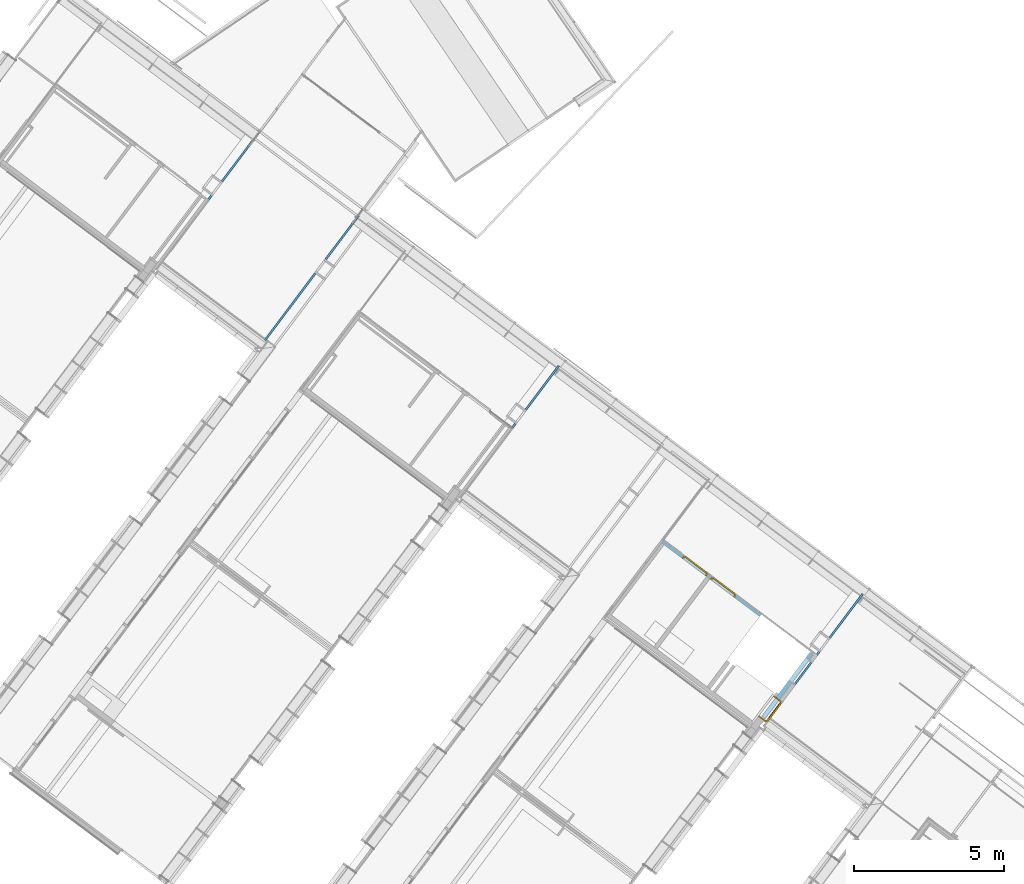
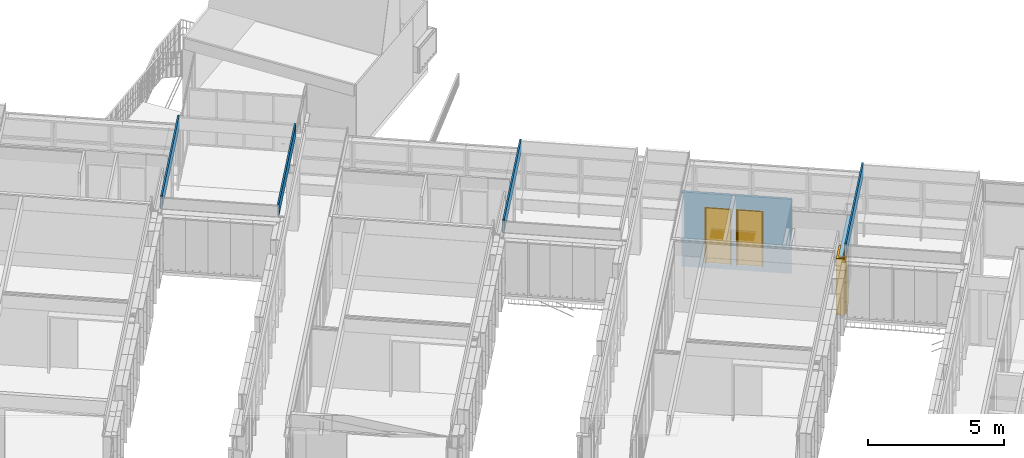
# One storey, part 138 of 243: 4 walls, 3 doors, 4 openings, plus 2 elements that do not belong to this part.
"""IFC2X3 building model written with IfcOpenShell, lengths in metres."""

from ifc_helpers import new_model, entity, si_unit, converted_unit, derived_unit, direction, frame, frame_2d, origin, place, context, subcontext, project, spatial, rectangle, extrude, faceted_brep, source, transform, mapped, material, layer, layer_set, layer_usage, type_object, type_shapes, element, fill, save


model = new_model("IFC2X3")

# Units and contexts
model_context = context("Model", 3, precision=1e-05, world=origin(), true_north=direction((6.123031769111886e-17, 1.0)))
body_context = subcontext(model_context, "Body", "Model", "MODEL_VIEW")
ifc_project = project(units=[si_unit("LENGTHUNIT", "METRE"), si_unit("AREAUNIT", "SQUARE_METRE"), si_unit("VOLUMEUNIT", "CUBIC_METRE"), converted_unit("PLANEANGLEUNIT", "DEGREE", entity("IfcRatioMeasure", 0.017453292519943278), si_unit("PLANEANGLEUNIT", "RADIAN"), dimensions=[0, 0, 0, 0, 0, 0, 0]), si_unit("MASSUNIT", "GRAM", prefix="KILO"), derived_unit("MASSDENSITYUNIT", [(si_unit("MASSUNIT", "GRAM", prefix="KILO"), 1), (si_unit("LENGTHUNIT", "METRE"), -3)]), derived_unit("IONCONCENTRATIONUNIT", [(si_unit("MASSUNIT", "GRAM", prefix="KILO"), 1), (si_unit("LENGTHUNIT", "METRE"), -3)]), derived_unit("MOMENTOFINERTIAUNIT", [(si_unit("LENGTHUNIT", "METRE"), 4)]), si_unit("TIMEUNIT", "SECOND"), si_unit("FREQUENCYUNIT", "HERTZ"), si_unit("THERMODYNAMICTEMPERATUREUNIT", "DEGREE_CELSIUS"), derived_unit("THERMALTRANSMITTANCEUNIT", [(si_unit("MASSUNIT", "GRAM", prefix="KILO"), 1), (si_unit("THERMODYNAMICTEMPERATUREUNIT", "KELVIN"), -1), (si_unit("TIMEUNIT", "SECOND"), -3)]), derived_unit("THERMALCONDUCTANCEUNIT", [(si_unit("MASSUNIT", "GRAM", prefix="KILO"), 1), (si_unit("THERMODYNAMICTEMPERATUREUNIT", "KELVIN"), -1), (si_unit("TIMEUNIT", "SECOND"), -3), (si_unit("LENGTHUNIT", "METRE"), 1)]), derived_unit("VOLUMETRICFLOWRATEUNIT", [(si_unit("LENGTHUNIT", "METRE"), 3), (si_unit("TIMEUNIT", "SECOND"), -1)]), derived_unit("MASSFLOWRATEUNIT", [(si_unit("MASSUNIT", "GRAM", prefix="KILO"), 1), (si_unit("TIMEUNIT", "SECOND"), -1)]), derived_unit("ROTATIONALFREQUENCYUNIT", [(si_unit("TIMEUNIT", "SECOND"), -1)]), si_unit("ELECTRICCURRENTUNIT", "AMPERE"), si_unit("ELECTRICVOLTAGEUNIT", "VOLT"), si_unit("POWERUNIT", "WATT"), si_unit("FORCEUNIT", "NEWTON", prefix="KILO"), si_unit("ILLUMINANCEUNIT", "LUX"), si_unit("LUMINOUSFLUXUNIT", "LUMEN"), si_unit("LUMINOUSINTENSITYUNIT", "CANDELA"), derived_unit("USERDEFINED", [(si_unit("MASSUNIT", "GRAM", prefix="KILO"), -1), (si_unit("LENGTHUNIT", "METRE"), -2), (si_unit("TIMEUNIT", "SECOND"), 3), (si_unit("LUMINOUSFLUXUNIT", "LUMEN"), 1)]), derived_unit("USERDEFINED", [(si_unit("MASSUNIT", "GRAM", prefix="KILO"), 1), (si_unit("TIMEUNIT", "SECOND"), -3), (si_unit("LENGTHUNIT", "METRE"), 3), (si_unit("ELECTRICCURRENTUNIT", "AMPERE"), -2)]), derived_unit("SOUNDPOWERUNIT", [(si_unit("MASSUNIT", "GRAM", prefix="KILO"), 1), (si_unit("TIMEUNIT", "SECOND"), -3), (si_unit("LENGTHUNIT", "METRE"), 2)]), derived_unit("SOUNDPRESSUREUNIT", [(si_unit("MASSUNIT", "GRAM", prefix="KILO"), 1), (si_unit("LENGTHUNIT", "METRE"), -1), (si_unit("TIMEUNIT", "SECOND"), -2)]), derived_unit("LINEARVELOCITYUNIT", [(si_unit("LENGTHUNIT", "METRE"), 1), (si_unit("TIMEUNIT", "SECOND"), -1)]), si_unit("PRESSUREUNIT", "PASCAL"), derived_unit("USERDEFINED", [(si_unit("MASSUNIT", "GRAM", prefix="KILO"), 1), (si_unit("LENGTHUNIT", "METRE"), -2), (si_unit("TIMEUNIT", "SECOND"), -2)]), derived_unit("LINEARFORCEUNIT", [(si_unit("MASSUNIT", "GRAM", prefix="KILO"), 1), (si_unit("TIMEUNIT", "SECOND"), -2)]), derived_unit("PLANARFORCEUNIT", [(si_unit("MASSUNIT", "GRAM", prefix="KILO"), 1), (si_unit("LENGTHUNIT", "METRE"), -1), (si_unit("TIMEUNIT", "SECOND"), -2)]), derived_unit("SPECIFICHEATCAPACITYUNIT", [(si_unit("THERMODYNAMICTEMPERATUREUNIT", "KELVIN"), -1), (si_unit("LENGTHUNIT", "METRE"), 2), (si_unit("TIMEUNIT", "SECOND"), -2)]), derived_unit("HEATINGVALUEUNIT", [(si_unit("LENGTHUNIT", "METRE"), 2), (si_unit("TIMEUNIT", "SECOND"), -2)]), derived_unit("VAPORPERMEABILITYUNIT", [(si_unit("LENGTHUNIT", "METRE"), -1), (si_unit("TIMEUNIT", "SECOND"), 1)]), derived_unit("DYNAMICVISCOSITYUNIT", [(si_unit("MASSUNIT", "GRAM", prefix="KILO"), 1), (si_unit("TIMEUNIT", "SECOND"), -1), (si_unit("LENGTHUNIT", "METRE"), -1)]), derived_unit("THERMALEXPANSIONCOEFFICIENTUNIT", [(si_unit("THERMODYNAMICTEMPERATUREUNIT", "KELVIN"), -1)]), derived_unit("MODULUSOFELASTICITYUNIT", [(si_unit("MASSUNIT", "GRAM", prefix="KILO"), 1), (si_unit("LENGTHUNIT", "METRE"), -1), (si_unit("TIMEUNIT", "SECOND"), -2)]), derived_unit("ISOTHERMALMOISTURECAPACITYUNIT", [(si_unit("LENGTHUNIT", "METRE"), 3), (si_unit("MASSUNIT", "GRAM", prefix="KILO"), -1)]), derived_unit("MOISTUREDIFFUSIVITYUNIT", [(si_unit("TIMEUNIT", "SECOND"), -1), (si_unit("LENGTHUNIT", "METRE"), 2)])], contexts=[model_context])

# Site, building, storey
site_placement = place(None, frame((0.0, 0.0, 235.0), z_axis=(0.0, 0.0, 1.0), x_axis=(-0.7996477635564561, 0.6004693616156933, 0.0)))
site = spatial("IfcSite", under=ifc_project, at=site_placement, Name="Default", CompositionType="ELEMENT")
building_placement = place(site_placement, origin())
building = spatial("IfcBuilding", under=site, at=building_placement, CompositionType="ELEMENT")
storey_placement = place(building_placement, origin())
storey = spatial("IfcBuildingStorey", under=building, at=storey_placement, Name="P0- Escola", CompositionType="ELEMENT", Elevation=0.0)

# Wall, openings, door
ifc_material_1 = material(Name="_Ceràmica- ENV")
ifc_layer_1 = layer(ifc_material_1, 0.14)
ifc_layer_set_1 = layer_set([ifc_layer_1], Name="Muro básico:ENV- Ceràmic- 14 cm")
ifc_layer_usage_1 = layer_usage(ifc_layer_set_1, "AXIS2", "NEGATIVE", 0.07)
wall_type_1 = type_object("IfcWallType", Name="Muro básico:ENV- Ceràmic- 14 cm", PredefinedType="STANDARD", material=ifc_layer_set_1)
wall_1_placement = place(storey_placement, frame((41.18514768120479, -36.75318813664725, -0.2), z_axis=(0.0, 0.0, 1.0), x_axis=(0.0, -1.0, 0.0)))
wall_1 = element("IfcWallStandardCase", 1, at=wall_1_placement, inside=storey, type_object=wall_type_1, material=ifc_layer_usage_1, Name="Muro básico:ENV- Ceràmic- 14 cm", ObjectType="Muro básico:ENV- Ceràmic- 14 cm", context=body_context, shape_type="SweptSolid", body=[
    extrude(rectangle(XDim=2.667501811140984, YDim=0.14000000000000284, at=frame_2d((1.3337509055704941, 1.0269562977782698e-15), x_axis=(-1.0, 0.0))), origin(), (0.0, 0.0, 1.0), 2.8000000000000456),
])
opening_1_placement = place(wall_1_placement, frame((-0.0799999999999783, -0.06999999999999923, 0.2)))
opening_1 = element("IfcOpeningElement", 2, at=opening_1_placement, cuts=wall_1, Name="FUS- Porta Fusta- marc ocult variable- obertura interior:FUS- Porta Fusta- marc ocult- 90x250,5 cm:1", ObjectType="Opening", context=body_context, shape_type="SweptSolid", body=[
    extrude(rectangle(XDim=2.5449999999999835, YDim=0.8700000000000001, at=frame_2d((1.2724999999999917, 0.4350000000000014), x_axis=(1.0, 0.0))), frame((0.0, 0.0, 0.0), z_axis=(0.0, 1.0, 0.0), x_axis=(0.0, 0.0, 1.0)), (0.0, 0.0, 1.0), 0.14),
])
opening_2_placement = place(wall_1_placement, frame((1.48500181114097, -0.06999999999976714, 0.2)))
element("IfcOpeningElement", 3, at=opening_2_placement, cuts=wall_1, Name="FUS- Marc Fusta- marc ocult variable- remat ascensor:FUS- Porta Fusta- marc ocult- 90x250,5 cm:1", ObjectType="Opening", context=body_context, shape_type="SweptSolid", body=[
    extrude(rectangle(XDim=2.5449999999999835, YDim=0.9800000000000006, at=frame_2d((1.2724999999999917, 0.4900000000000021), x_axis=(1.0, 0.0))), frame((0.0, 0.0, 0.0), z_axis=(0.0, 1.0, 0.0), x_axis=(0.0, 0.0, 1.0)), (0.0, 0.0, 1.0), 0.14),
])
ifc_material_2 = material(Name="_Fusta massisa- T1")
door_style_1 = type_object("IfcDoorStyle", Name="FUS- Porta Fusta- marc ocult variable- obertura interior:FUS- Porta Fusta- marc ocult- 90x250,5 cm", ConstructionType="NOTDEFINED", OperationType="NOTDEFINED", ParameterTakesPrecedence=False, Sizeable=False, material=ifc_material_2)
shared_shape_1 = source(origin(), body_context, "Body", "Brep", [
    faceted_brep([(0.040000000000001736, -0.09000000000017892, 2.5049999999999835), (0.8299999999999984, -0.09000000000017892, 2.5049999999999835), (0.830000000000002, -0.09000000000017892, 0.0), (0.8599999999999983, -0.09000000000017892, 0.0), (0.8599999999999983, -0.09000000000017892, 2.5449999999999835), (0.010000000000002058, -0.09000000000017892, 2.5449999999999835), (0.010000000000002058, -0.09000000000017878, 0.0), (0.03999999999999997, -0.09000000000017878, 0.0), (0.830000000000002, 0.1899999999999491, 0.0), (0.830000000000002, 0.09500000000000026, 2.5049999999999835), (0.8299999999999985, 0.09500000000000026, 2.5449999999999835), (0.830000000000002, 0.1899999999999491, 2.5449999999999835), (0.8599999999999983, -0.08000000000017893, 0.0), (0.8099999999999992, 0.1899999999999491, 0.0), (0.8099999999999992, 0.23999999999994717, 0.0), (0.870000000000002, 0.23999999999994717, 0.0), (0.870000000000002, -0.08000000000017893, 0.0), (0.8599999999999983, -0.08000000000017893, 2.5449999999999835), (0.010000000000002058, -0.08000000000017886, 2.5449999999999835), (0.010000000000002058, -0.08000000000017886, 0.0), (0.0, -0.08000000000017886, 0.0), (0.0, 0.23999999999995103, 0.0), (0.060000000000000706, 0.23999999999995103, 0.0), (0.060000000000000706, 0.18999999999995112, 0.0), (0.04000000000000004, 0.18999999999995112, 0.0), (0.04000000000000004, 0.18999999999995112, 2.5449999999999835), (0.04000000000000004, 0.09500000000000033, 2.5449999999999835), (0.04000000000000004, 0.09500000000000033, 2.5049999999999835), (0.8099999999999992, 0.1899999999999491, 2.5449999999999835), (0.8099999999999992, 0.23999999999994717, 2.5449999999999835), (0.870000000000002, 0.23999999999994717, 2.5449999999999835), (0.870000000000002, -0.08000000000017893, 2.5449999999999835), (0.0, -0.08000000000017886, 2.5449999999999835), (0.0, 0.23999999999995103, 2.5449999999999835), (0.060000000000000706, 0.23999999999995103, 2.5449999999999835), (0.060000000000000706, 0.18999999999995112, 2.5449999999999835), (0.05999999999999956, 0.09500000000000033, 2.5449999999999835), (0.8099999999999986, 0.09500000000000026, 2.5449999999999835), (0.8099999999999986, 0.14000000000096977, 2.5449999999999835), (0.05999999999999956, 0.14000000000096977, 2.5449999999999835), (0.05999999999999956, 0.09500000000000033, 2.5049999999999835), (0.8099999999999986, 0.09500000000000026, 2.5049999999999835), (0.8099999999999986, 0.14000000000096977, 2.5049999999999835), (0.05999999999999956, 0.14000000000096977, 2.5049999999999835)], [[[0, 1, 2, 3, 4, 5, 6, 7]], [[8, 2, 1, 9, 10, 11]], [[12, 3, 2, 8, 13, 14, 15, 16]], [[17, 4, 3, 12]], [[5, 18, 19, 6]], [[19, 20, 21, 22, 23, 24, 7, 6]], [[7, 24, 25, 26, 27, 0]], [[11, 28, 13, 8]], [[28, 29, 14, 13]], [[29, 30, 15, 14]], [[30, 31, 16, 15]], [[31, 17, 12, 16]], [[18, 32, 20, 19]], [[32, 33, 21, 20]], [[33, 34, 22, 21]], [[34, 35, 23, 22]], [[35, 25, 24, 23]], [[36, 26, 25, 35, 34, 33, 32, 18, 5, 4, 17, 31, 30, 29, 28, 11, 10, 37, 38, 39]], [[26, 36, 40, 27]], [[37, 10, 9, 41]], [[38, 37, 41, 42]], [[39, 38, 42, 43]], [[36, 39, 43, 40]], [[40, 43, 42, 41, 9, 1, 0, 27]]]),
    faceted_brep([(0.8099999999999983, 0.27499999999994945, 0.0), (0.8099999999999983, 0.22499999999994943, 0.0), (0.05999999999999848, 0.22499999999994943, 0.0), (0.05999999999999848, 0.27499999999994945, 0.0), (0.8099999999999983, 0.27499999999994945, 2.5050000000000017), (0.8099999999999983, 0.22499999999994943, 2.5050000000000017), (0.05999999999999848, 0.22499999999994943, 2.5050000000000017), (0.05999999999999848, 0.27499999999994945, 2.5050000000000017)], [[[0, 1, 2, 3]], [[4, 5, 1, 0]], [[5, 6, 2, 1]], [[6, 7, 3, 2]], [[7, 4, 0, 3]], [[4, 7, 6, 5]]]),
])
type_shapes(door_style_1, [shared_shape_1])
door_1_placement = place(opening_1_placement, frame((0.8699999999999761, 0.14000000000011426, 0.0), z_axis=(0.0, 0.0, 1.0), x_axis=(-1.0, 0.0, 0.0)))
door_1 = element("IfcDoor", 4, at=door_1_placement, inside=storey, type_object=door_style_1, material=ifc_material_2, Name="FUS- Porta Fusta- marc ocult variable- obertura interior:FUS- Porta Fusta- marc ocult- 90x250,5 cm", ObjectType="FUS- Porta Fusta- marc ocult variable- obertura interior:FUS- Porta Fusta- marc ocult- 90x250,5 cm", OverallHeight=2.5449999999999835, OverallWidth=0.8700000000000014, context=body_context, shape_type="MappedRepresentation", body=[
    mapped(shared_shape_1, transform((0.0, 0.0, 0.0), scale=1.0)),
])
fill(opening_1, door_1)

# Wall, openings, doors
ifc_layer_2 = layer(ifc_material_1, 0.09)
ifc_layer_set_2 = layer_set([ifc_layer_2], Name="Muro básico:ENV- Ceràmic- 9 cm")
ifc_layer_usage_2 = layer_usage(ifc_layer_set_2, "AXIS2", "NEGATIVE", 0.045)
wall_type_2 = type_object("IfcWallType", Name="Muro básico:ENV- Ceràmic- 9 cm", PredefinedType="STANDARD", material=ifc_layer_set_2)
wall_2_placement = place(storey_placement, frame((47.40514768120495, -39.41818994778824, -0.2), z_axis=(0.0, 0.0, 1.0), x_axis=(-1.0, 0.0, 0.0)))
wall_2 = element("IfcWallStandardCase", 5, at=wall_2_placement, inside=storey, type_object=wall_type_2, material=ifc_layer_usage_2, Name="Muro básico:ENV- Ceràmic- 9 cm", ObjectType="Muro básico:ENV- Ceràmic- 9 cm", context=body_context, shape_type="SweptSolid", body=[
    extrude(rectangle(XDim=4.084999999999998, YDim=0.08999999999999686, at=frame_2d((2.042499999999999, 1.4016565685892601e-15), x_axis=(-1.0, 0.0))), origin(), (0.0, 0.0, 1.0), 3.350000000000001),
])
opening_3_placement = place(wall_2_placement, frame((3.039999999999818, 0.04499999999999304, 0.2)))
opening_3 = element("IfcOpeningElement", 6, at=opening_3_placement, cuts=wall_2, Name="FUS- Porta Fusta- marc ocult- obertura interior:FUS- Porta Fusta- marc ocult- 90x250,5 cm:1", ObjectType="Opening", context=body_context, shape_type="SweptSolid", body=[
    extrude(rectangle(XDim=2.544999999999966, YDim=1.0199999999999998, at=frame_2d((1.272499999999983, 0.5099999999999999), x_axis=(1.0, 0.0))), frame((0.0, 0.0, 0.0), z_axis=(0.0, -1.0, 0.0), x_axis=(0.0, 0.0, 1.0)), (0.0, 0.0, 1.0), 0.09),
])
opening_4_placement = place(wall_2_placement, frame((1.8599999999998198, 0.04499999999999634, 0.2)))
opening_4 = element("IfcOpeningElement", 7, at=opening_4_placement, cuts=wall_2, Name="FUS- Porta Fusta- marc ocult- obertura interior:FUS- Porta Fusta- marc ocult- 90x250,5 cm:1", ObjectType="Opening", context=body_context, shape_type="SweptSolid", body=[
    extrude(rectangle(XDim=2.544999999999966, YDim=1.0199999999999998, at=frame_2d((1.272499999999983, 0.5099999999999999), x_axis=(1.0, 0.0))), frame((0.0, 0.0, 0.0), z_axis=(0.0, -1.0, 0.0), x_axis=(0.0, 0.0, 1.0)), (0.0, 0.0, 1.0), 0.09),
])
ifc_material_3 = material(Name="_Fusta massisa- T1-  REV- PAV")
door_style_2 = type_object("IfcDoorStyle", Name="FUS- Porta Fusta- marc ocult- obertura interior:FUS- Porta Fusta- marc ocult- 90x250,5 cm", ConstructionType="NOTDEFINED", OperationType="NOTDEFINED", ParameterTakesPrecedence=False, Sizeable=False, material=ifc_material_3)
shared_shape_2 = source(origin(), body_context, "Body", "Brep", [
    faceted_brep([(1.0100000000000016, 0.010000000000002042, 0.0), (1.0100000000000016, 0.0, 0.0), (0.9800000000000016, 0.0, 0.0), (0.9800000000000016, 0.04000000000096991, 0.0), (0.9599999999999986, 0.04000000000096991, 0.0), (0.9599999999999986, 0.09000000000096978, 0.0), (1.0200000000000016, 0.09000000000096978, 0.0), (1.0200000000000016, 0.010000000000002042, 0.0), (1.0100000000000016, 0.010000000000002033, 2.5449999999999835), (1.0100000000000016, 0.0, 2.5449999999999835), (0.9800000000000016, 0.0, 2.5049999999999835), (0.9800000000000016, 0.04000000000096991, 2.5049999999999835), (0.9599999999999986, 0.04000000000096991, 2.5049999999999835), (0.9599999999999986, 0.07000000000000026, 2.5049999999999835), (0.9599999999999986, 0.09000000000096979, 2.5049999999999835), (1.0200000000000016, 0.09000000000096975, 2.5449999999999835), (1.0200000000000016, 0.010000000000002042, 2.5449999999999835), (0.010000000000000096, 0.010000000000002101, 0.0), (0.0, 0.010000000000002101, 0.0), (0.0, 0.09000000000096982, 0.0), (0.06000000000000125, 0.09000000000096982, 0.0), (0.06000000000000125, 0.040000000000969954, 0.0), (0.03999999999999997, 0.04000000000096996, 0.0), (0.03999999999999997, 0.0, 0.0), (0.010000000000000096, 0.0, 0.0), (0.010000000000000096, 0.010000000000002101, 2.5449999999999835), (0.0, 0.010000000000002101, 2.5449999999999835), (0.0, 0.09000000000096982, 2.5449999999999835), (0.06000000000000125, 0.09000000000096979, 2.5049999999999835), (0.06000000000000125, 0.07000000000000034, 2.5049999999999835), (0.06000000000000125, 0.040000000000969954, 2.5049999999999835), (0.040000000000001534, 0.04000000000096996, 2.5049999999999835), (0.03999999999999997, 0.0, 2.5049999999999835), (0.010000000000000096, 0.0, 2.5449999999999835)], [[[0, 1, 2, 3, 4, 5, 6, 7]], [[8, 9, 1, 0]], [[3, 2, 10, 11]], [[4, 3, 11, 12]], [[5, 4, 12, 13, 14]], [[15, 16, 7, 6]], [[16, 8, 0, 7]], [[17, 18, 19, 20, 21, 22, 23, 24]], [[25, 26, 18, 17]], [[26, 27, 19, 18]], [[21, 20, 28, 29, 30]], [[22, 21, 30, 31]], [[23, 22, 31, 32]], [[33, 25, 17, 24]], [[8, 16, 15, 27, 26, 25, 33, 9]], [[28, 14, 13, 12, 11, 10, 32, 31, 30, 29]], [[32, 10, 2, 1, 9, 33, 24, 23]], [[14, 28, 20, 19, 27, 15, 6, 5]]]),
    faceted_brep([(0.9599999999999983, 0.12500000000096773, 0.0), (0.9599999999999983, 0.07500000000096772, 0.0), (0.05999999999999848, 0.07500000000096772, 0.0), (0.05999999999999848, 0.12500000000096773, 0.0), (0.9599999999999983, 0.12500000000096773, 2.5050000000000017), (0.9599999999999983, 0.07500000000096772, 2.5050000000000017), (0.05999999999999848, 0.07500000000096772, 2.5050000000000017), (0.05999999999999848, 0.12500000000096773, 2.5050000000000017)], [[[0, 1, 2, 3]], [[4, 5, 1, 0]], [[5, 6, 2, 1]], [[6, 7, 3, 2]], [[7, 4, 0, 3]], [[4, 7, 6, 5]]]),
])
type_shapes(door_style_2, [shared_shape_2])
door_2_placement = place(opening_3_placement, frame((-1.019999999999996, -0.09000000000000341, 0.0)))
door_2 = element("IfcDoor", 8, at=door_2_placement, inside=storey, type_object=door_style_2, material=ifc_material_3, Name="FUS- Porta Fusta- marc ocult- obertura interior:FUS- Porta Fusta- marc ocult- 90x250,5 cm", ObjectType="FUS- Porta Fusta- marc ocult- obertura interior:FUS- Porta Fusta- marc ocult- 90x250,5 cm", OverallHeight=2.544999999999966, OverallWidth=1.020000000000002, context=body_context, shape_type="MappedRepresentation", body=[
    mapped(shared_shape_2, transform((0.0, 0.0, 0.0), scale=1.0)),
])
fill(opening_3, door_2)
door_style_3 = type_object("IfcDoorStyle", Name="FUS- Porta Fusta- marc ocult- obertura interior:FUS- Porta Fusta- marc ocult- 90x250,5 cm", ConstructionType="NOTDEFINED", OperationType="NOTDEFINED", ParameterTakesPrecedence=False, Sizeable=False, material=ifc_material_3)
shared_shape_3 = source(origin(), body_context, "Body", "Brep", [
    faceted_brep([(-0.06999999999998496, 0.010000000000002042, 0.0), (-0.07999999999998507, 0.010000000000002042, 0.0), (-0.07999999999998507, 0.09000000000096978, 0.0), (-0.019999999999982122, 0.09000000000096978, 0.0), (-0.019999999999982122, 0.04000000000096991, 0.0), (-0.03999999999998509, 0.04000000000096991, 0.0), (-0.03999999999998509, 0.0, 0.0), (-0.06999999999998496, 0.0, 0.0), (-0.06999999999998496, 0.010000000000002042, 2.5449999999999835), (-0.0699999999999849, 0.0, 2.5449999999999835), (-0.03999999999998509, 0.04000000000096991, 2.5049999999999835), (-0.039999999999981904, 0.0, 2.5049999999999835), (-0.019999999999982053, 0.04000000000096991, 2.5049999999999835), (-0.019999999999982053, 0.09000000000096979, 2.5049999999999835), (-0.019999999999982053, 0.07000000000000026, 2.5049999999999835), (-0.07999999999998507, 0.09000000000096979, 2.5449999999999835), (-0.07999999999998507, 0.010000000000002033, 2.5449999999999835), (0.9300000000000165, 0.010000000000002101, 0.0), (0.9300000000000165, 0.0, 0.0), (0.9000000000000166, 0.0, 0.0), (0.9000000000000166, 0.04000000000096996, 0.0), (0.8800000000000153, 0.040000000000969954, 0.0), (0.8800000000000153, 0.09000000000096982, 0.0), (0.9400000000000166, 0.09000000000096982, 0.0), (0.9400000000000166, 0.010000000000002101, 0.0), (0.9300000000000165, 0.010000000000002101, 2.5449999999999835), (0.9400000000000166, 0.010000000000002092, 2.5449999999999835), (0.9400000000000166, 0.09000000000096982, 2.5449999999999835), (0.8800000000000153, 0.040000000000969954, 2.5049999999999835), (0.8800000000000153, 0.07000000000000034, 2.5049999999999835), (0.8800000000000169, 0.09000000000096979, 2.5049999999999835), (0.900000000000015, 0.04000000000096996, 2.5049999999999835), (0.9000000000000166, 0.0, 2.5049999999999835), (0.9300000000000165, 0.0, 2.5449999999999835)], [[[0, 1, 2, 3, 4, 5, 6, 7]], [[8, 0, 7, 9]], [[5, 10, 11, 6]], [[4, 12, 10, 5]], [[3, 13, 14, 12, 4]], [[15, 2, 1, 16]], [[16, 1, 0, 8]], [[17, 18, 19, 20, 21, 22, 23, 24]], [[25, 17, 24, 26]], [[26, 24, 23, 27]], [[21, 28, 29, 30, 22]], [[20, 31, 28, 21]], [[19, 32, 31, 20]], [[33, 18, 17, 25]], [[8, 9, 33, 25, 26, 27, 15, 16]], [[30, 29, 28, 31, 32, 11, 10, 12, 14, 13]], [[32, 19, 18, 33, 9, 7, 6, 11]], [[13, 3, 2, 15, 27, 23, 22, 30]]]),
    faceted_brep([(-0.019999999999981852, 0.12500000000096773, 0.0), (0.8800000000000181, 0.12500000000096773, 0.0), (0.8800000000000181, 0.07500000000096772, 0.0), (-0.019999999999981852, 0.07500000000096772, 0.0), (-0.019999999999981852, 0.12500000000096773, 2.5050000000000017), (-0.019999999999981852, 0.07500000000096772, 2.5050000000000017), (0.8800000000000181, 0.07500000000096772, 2.5050000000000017), (0.8800000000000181, 0.12500000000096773, 2.5050000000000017)], [[[0, 1, 2, 3]], [[4, 0, 3, 5]], [[5, 3, 2, 6]], [[6, 2, 1, 7]], [[7, 1, 0, 4]], [[4, 5, 6, 7]]]),
])
type_shapes(door_style_3, [shared_shape_3])
door_3_placement = place(opening_4_placement, frame((-0.9400000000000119, -0.0899999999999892, 0.0)))
door_3 = element("IfcDoor", 9, at=door_3_placement, inside=storey, type_object=door_style_3, material=ifc_material_3, Name="FUS- Porta Fusta- marc ocult- obertura interior:FUS- Porta Fusta- marc ocult- 90x250,5 cm", ObjectType="FUS- Porta Fusta- marc ocult- obertura interior:FUS- Porta Fusta- marc ocult- 90x250,5 cm", OverallHeight=2.544999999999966, OverallWidth=1.020000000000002, context=body_context, shape_type="MappedRepresentation", body=[
    mapped(shared_shape_3, transform((0.0, 0.0, 0.0), scale=1.0)),
])
fill(opening_4, door_3)

# Walls
ifc_material_4 = material(Name="_Guix laminat- ENV")
ifc_layer_3 = layer(ifc_material_4, 0.02)
ifc_material_5 = material(Name="_Aillament")
ifc_layer_4 = layer(ifc_material_5, 0.045)
ifc_layer_set_3 = layer_set([ifc_layer_3, ifc_layer_4], Name="Muro básico:REV- Guix Laminat Extradossat- Aillament- T1- 6,5 cm")
wall_type_3 = type_object("IfcWallType", Name="Muro básico:REV- Guix Laminat Extradossat- Aillament- T1- 6,5 cm", PredefinedType="STANDARD", material=ifc_layer_set_3)
for number, where, z_axis, x_axis, name in (
    (10, (53.71264768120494, -42.04019175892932, 2.5650000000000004), (0.0, 0.0, 1.0), (0.0, 1.0, 0.0), "Muro básico:REV- Guix Laminat Extradossat- Aillament- T1- 6,5 cm"),
    (11, (66.41264768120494, -42.04019175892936, 2.5650000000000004), (0.0, 0.0, 1.0), (0.0, 1.0, 0.0), "Muro básico:REV- Guix Laminat Extradossat- Aillament- T1- 6,5 cm"),
):
    element("IfcWall", number, at=place(storey_placement, frame(where, z_axis=z_axis, x_axis=x_axis)), inside=storey, type_object=wall_type_3, Name=name, ObjectType="Muro básico:REV- Guix Laminat Extradossat- Aillament- T1- 6,5 cm", context=body_context, shape_type="Brep", body=[
        faceted_brep([(5.209999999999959, -0.03250000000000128, 0.5850000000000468), (0.0, -0.03250000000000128, 0.5850000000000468), (0.0, -0.03250000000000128, 0.03499999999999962), (2.5900000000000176, -0.03250000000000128, 0.03499999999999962), (2.5900000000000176, -0.03250000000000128, 0.0), (5.209999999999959, -0.03250000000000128, 0.0), (5.209999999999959, -0.03250000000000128, 0.03500000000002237), (5.209999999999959, -0.03250000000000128, 0.5200000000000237), (5.209999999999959, 0.03250000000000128, 0.0), (0.0, 0.03250000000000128, 0.0), (0.0, 0.03250000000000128, 0.5850000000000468), (5.209999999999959, 0.03250000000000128, 0.5850000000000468), (2.5900000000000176, 0.01249999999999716, 0.0), (0.0, 0.01249999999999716, 0.0), (0.0, 0.01249999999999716, 0.03499999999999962), (2.5900000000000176, 0.01249999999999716, 0.03499999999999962)], [[[0, 1, 2, 3, 4, 5, 6, 7]], [[8, 9, 10, 11]], [[9, 8, 5, 4, 12, 13]], [[1, 0, 11, 10]], [[10, 9, 13, 14, 2, 1]], [[0, 7, 6, 5, 8, 11]], [[14, 15, 3, 2]], [[15, 12, 4, 3]], [[15, 14, 13, 12]]]),
    ])
wall_3_placement = place(storey_placement, frame((41.012647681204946, -42.040191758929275, 2.5650000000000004), z_axis=(0.0, 0.0, 1.0), x_axis=(0.0, 1.0, 0.0)))
element("IfcWall", 12, at=wall_3_placement, inside=storey, type_object=wall_type_3, Name="Muro básico:REV- Guix Laminat Extradossat- Aillament- T1- 6,5 cm", ObjectType="Muro básico:REV- Guix Laminat Extradossat- Aillament- T1- 6,5 cm", context=body_context, shape_type="Brep", body=[
    faceted_brep([(5.209999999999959, -0.03250000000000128, 0.5850000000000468), (0.0, -0.03250000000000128, 0.5850000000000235), (0.0, -0.03250000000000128, 0.03499999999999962), (2.542001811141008, -0.03250000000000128, 0.03499999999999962), (2.542001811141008, -0.03250000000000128, 0.0), (5.209999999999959, -0.03250000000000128, 0.0), (5.209999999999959, -0.03250000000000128, 0.03500000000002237), (5.209999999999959, -0.03250000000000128, 0.5200000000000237), (5.209999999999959, 0.03250000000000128, 0.0), (0.0, 0.03250000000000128, 0.0), (0.0, 0.03250000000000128, 0.5850000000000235), (5.209999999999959, 0.03250000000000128, 0.5850000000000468), (2.542001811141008, 0.01249999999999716, 0.0), (0.0, 0.01249999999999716, 0.0), (0.0, 0.01249999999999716, 0.03499999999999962), (2.542001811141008, 0.01249999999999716, 0.03499999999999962)], [[[0, 1, 2, 3, 4, 5, 6, 7]], [[8, 9, 10, 11]], [[9, 8, 5, 4, 12, 13]], [[1, 0, 11, 10]], [[10, 9, 13, 14, 2, 1]], [[0, 7, 6, 5, 8, 11]], [[14, 15, 3, 2]], [[15, 14, 13, 12]], [[15, 12, 4, 3]]]),
])
wall_4_placement = place(storey_placement, frame((62.07763953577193, -42.04019175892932, 2.5650000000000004), z_axis=(0.0, 0.0, 1.0), x_axis=(0.0, 1.0, 0.0)))
element("IfcWall", 13, at=wall_4_placement, inside=storey, type_object=wall_type_3, Name="Muro básico:REV- Guix Laminat Extradossat- Aillament- T1- 6,5 cm", ObjectType="Muro básico:REV- Guix Laminat Extradossat- Aillament- T1- 6,5 cm", context=body_context, shape_type="Brep", body=[
    faceted_brep([(0.0, -0.03250000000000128, 0.0), (5.209999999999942, -0.03250000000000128, 0.0), (5.209999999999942, -0.03250000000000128, 0.5850000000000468), (0.0, -0.03250000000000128, 0.5850000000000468), (0.0, 0.03250000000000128, 0.5850000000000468), (5.209999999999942, 0.03250000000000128, 0.5850000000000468), (5.209999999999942, 0.03250000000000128, 0.5200000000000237), (5.209999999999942, 0.03250000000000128, 0.03500000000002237), (5.209999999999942, 0.03250000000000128, 0.0), (5.160001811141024, 0.03250000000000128, 0.0), (5.1600018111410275, 0.03250000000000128, 0.03499999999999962), (2.41500362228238, 0.03250000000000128, 0.03499999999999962), (2.41500362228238, 0.03250000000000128, 0.0), (1.8349999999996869, 0.03250000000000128, 0.0), (1.8349999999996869, 0.03250000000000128, 0.03499999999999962), (0.0, 0.03250000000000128, 0.03499999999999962), (0.0, -0.01249999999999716, 0.0), (1.8349999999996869, -0.01249999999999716, 0.0), (2.41500362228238, -0.01249999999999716, 0.0), (5.160001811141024, -0.012500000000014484, 0.0), (0.0, -0.01249999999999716, 0.03499999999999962), (1.8349999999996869, -0.01249999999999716, 0.03499999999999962), (2.41500362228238, -0.01249999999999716, 0.03499999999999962), (5.160001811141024, -0.012500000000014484, 0.03499999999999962)], [[[0, 1, 2, 3]], [[4, 5, 6, 7, 8, 9, 10, 11, 12, 13, 14, 15]], [[1, 0, 16, 17, 13, 12, 18, 19, 9, 8]], [[3, 2, 5, 4]], [[0, 3, 4, 15, 20, 16]], [[14, 21, 20, 15]], [[21, 17, 16, 20]], [[17, 21, 14, 13]], [[22, 18, 12, 11]], [[22, 23, 19, 18]], [[19, 23, 10, 9]], [[2, 1, 8, 7, 6, 5]], [[23, 22, 11, 10]]]),
])

save(model, "model.ifc")
